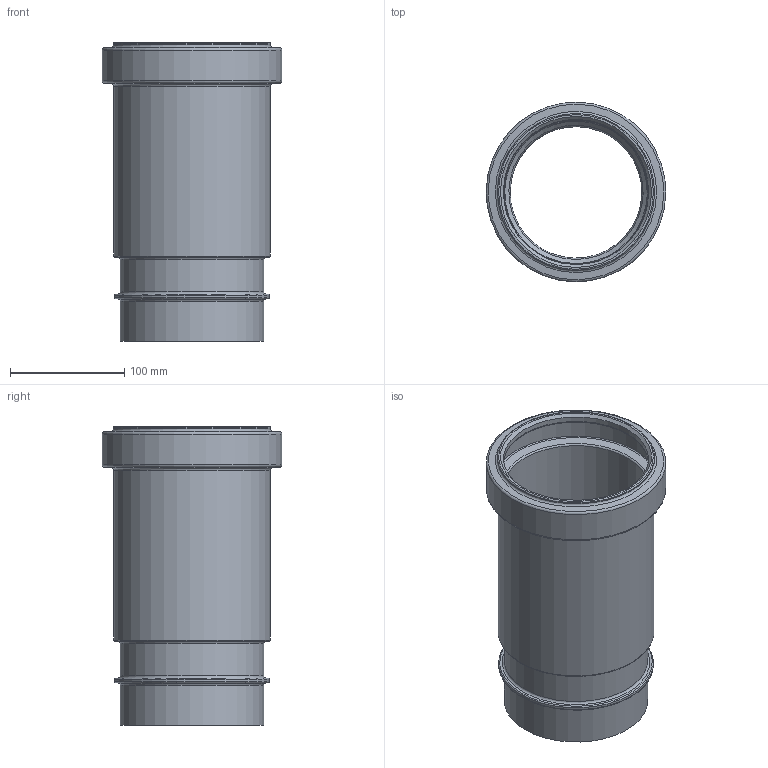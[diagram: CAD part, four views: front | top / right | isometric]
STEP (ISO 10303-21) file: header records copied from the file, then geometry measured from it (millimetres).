
FILE_DESCRIPTION(/* description */ (''),/* implementation_level */ '2;1');
FILE_NAME(/* name */ 'C:\Planerdaten\Export PLA\368.700.16.1\stp\368700.stp',/* time_stamp */ '2020-07-07T08:51:21+02:00',/* author */ ('JANAN'),/* organization */ (''),/* preprocessor_version */ 'ST-DEVELOPER v16.13',/* originating_system */ 'Autodesk Inventor 2018',/* authorisation */ '');
FILE_SCHEMA (('AUTOMOTIVE_DESIGN { 1 0 10303 214 3 1 1 }'));
Length unit declared in the file: millimetre
Products named in the file (1): Langmuffe m/Doppelbund PE-HD d125
Bounding box: 157.11 x 157.11 x 261.47 mm (x, y, z)
Volume: 612480.7 mm3; surface area: 237584.4 mm2
Topology: 1 solids, 1 shells, 38 faces, 85 edges, 49 vertices
Faces by surface type: torus 17, cylinder 10, cone 9, plane 2
Full cylindrical faces by diameter (mm): 115.125 x1, 125.425 x2, 126.4 x1, 127.025 x1, 135.425 x1, 136.7 x1, 137.325 x1, 146.85 x1, 157.15 x1
Entity records: 839 total; most frequent: DIRECTION 154, CARTESIAN_POINT 115, AXIS2_PLACEMENT_3D 77, EDGE_LOOP 76, ORIENTED_EDGE 76, STYLED_ITEM 39, FACE_BOUND 38, FACE_OUTER_BOUND 38
